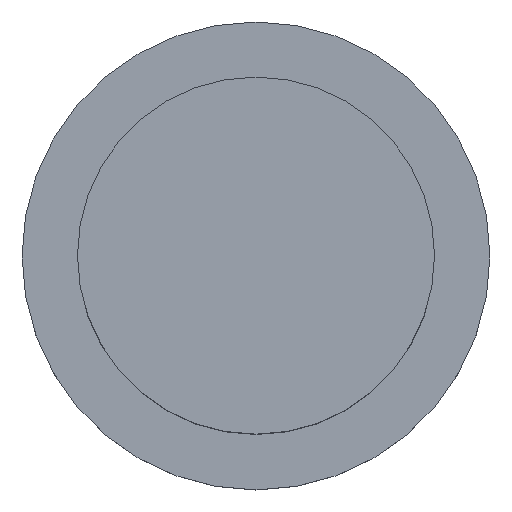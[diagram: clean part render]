
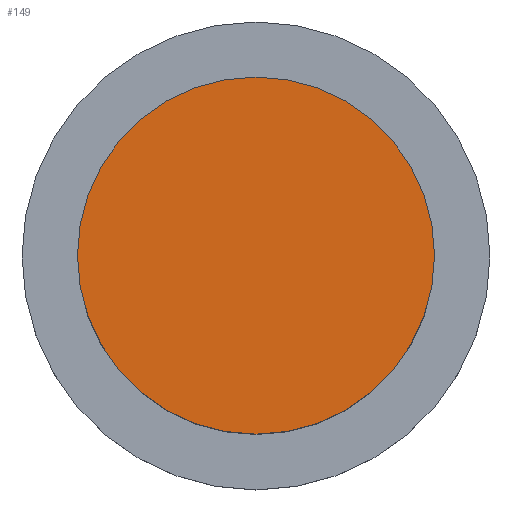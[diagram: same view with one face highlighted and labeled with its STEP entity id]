
A CAD part, top view. The second image highlights one B-rep face of the part: STEP entity #149.
In plain terms, the highlighted planar face has unit normal (0, 0, 1).
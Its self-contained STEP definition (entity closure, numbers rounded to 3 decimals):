
#129 = VERTEX_POINT('',#130);
#130 = CARTESIAN_POINT('',(2.9,-22.,12.));
#136 = EDGE_CURVE('',#129,#129,#137,.T.);
#137 = CIRCLE('',#138,2.9);
#138 = AXIS2_PLACEMENT_3D('',#139,#140,#141);
#139 = CARTESIAN_POINT('',(0.,-22.,12.));
#140 = DIRECTION('',(0.,0.,1.));
#141 = DIRECTION('',(1.,0.,0.));
#149 = ADVANCED_FACE('',(#150),#153,.T.);
#150 = FACE_BOUND('',#151,.F.);
#151 = EDGE_LOOP('',(#152));
#152 = ORIENTED_EDGE('',*,*,#136,.F.);
#153 = PLANE('',#154);
#154 = AXIS2_PLACEMENT_3D('',#155,#156,#157);
#155 = CARTESIAN_POINT('',(0.,-22.,12.));
#156 = DIRECTION('',(0.,0.,1.));
#157 = DIRECTION('',(1.,0.,0.));
